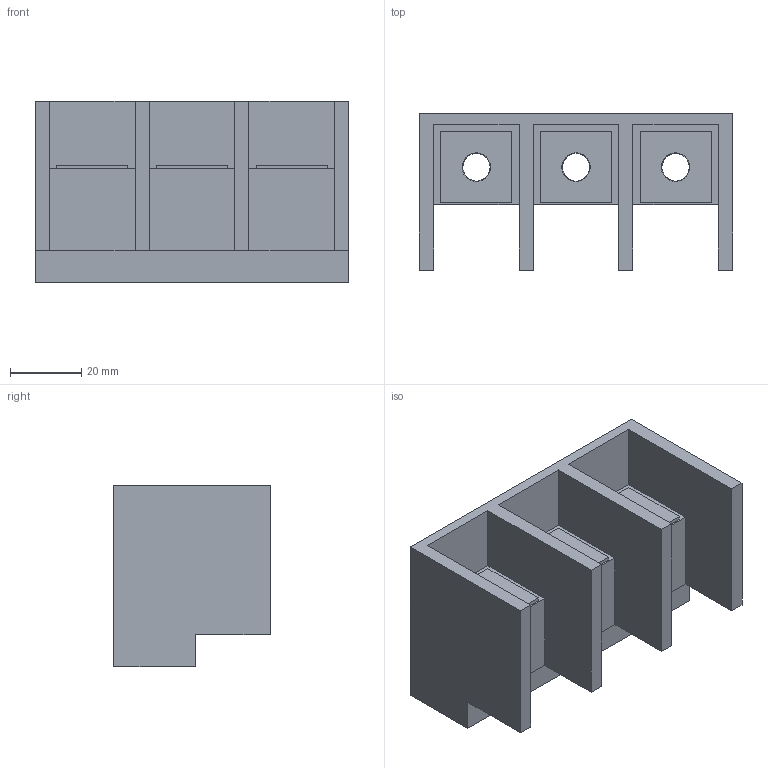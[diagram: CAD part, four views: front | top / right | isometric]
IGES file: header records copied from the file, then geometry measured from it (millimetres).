
Start section:  PTC IGES file: j3-30-37k-te1.igs
Global section: file name: j3-30-37k-te1.igs; native system: Pro/ENGINEER by Parametric Technology Corporation; preprocessor: 2006420; author: JE18792; organization: Unknown; date: 20101129.152804; units: millimetre
Bounding box: 88 x 44 x 51 mm (x, y, z)
Volume: 90339.7 mm3; surface area: 27819.5 mm2
Topology: 1 solids, 1 shells, 47 faces, 126 edges, 84 vertices
Faces by surface type: bspline 47
